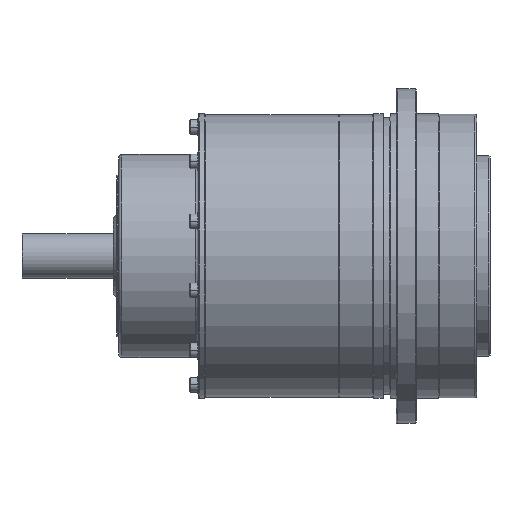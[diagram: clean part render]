
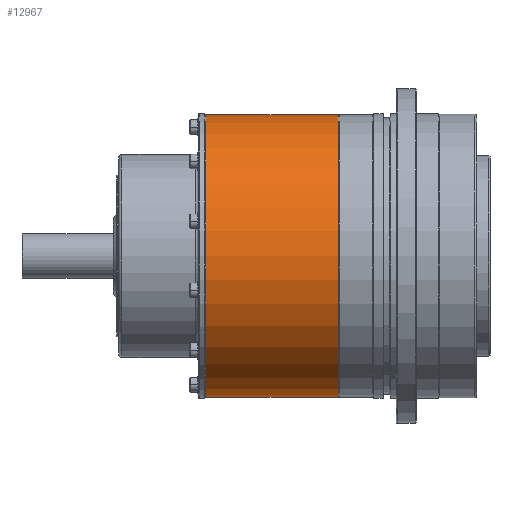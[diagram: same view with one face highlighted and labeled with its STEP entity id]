
A CAD part, top view. The second image highlights one B-rep face of the part: STEP entity #12967.
In plain terms, the highlighted cylindrical face has radius 126.5 mm (diameter 253 mm), a partial arc.
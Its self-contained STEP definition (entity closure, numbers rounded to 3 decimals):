
#10261=DIRECTION('',(-1.,0.,0.));
#10262=VECTOR('',#10261,119.2);
#10263=CARTESIAN_POINT('',(-0.3,-126.5,0.));
#10264=LINE('',#10263,#10262);
#10265=DIRECTION('',(-1.,0.,0.));
#10266=VECTOR('',#10265,119.2);
#10267=CARTESIAN_POINT('',(-0.3,126.5,0.));
#10268=LINE('',#10267,#10266);
#10269=CARTESIAN_POINT('',(-119.5,0.,0.));
#10270=DIRECTION('',(1.,0.,0.));
#10271=DIRECTION('',(0.,1.,0.));
#10272=AXIS2_PLACEMENT_3D('',#10269,#10270,#10271);
#10274=CARTESIAN_POINT('',(-0.3,0.,0.));
#10275=DIRECTION('',(-1.,0.,0.));
#10276=DIRECTION('',(0.,-1.,0.));
#10277=AXIS2_PLACEMENT_3D('',#10274,#10275,#10276);
#10434=CARTESIAN_POINT('',(-0.3,-126.5,0.));
#10435=CARTESIAN_POINT('',(-0.3,126.5,0.));
#10436=VERTEX_POINT('',#10434);
#10437=VERTEX_POINT('',#10435);
#10454=CARTESIAN_POINT('',(-119.5,126.5,0.));
#10455=CARTESIAN_POINT('',(-119.5,-126.5,0.));
#10456=VERTEX_POINT('',#10454);
#10457=VERTEX_POINT('',#10455);
#12954=CARTESIAN_POINT('',(-208.95,0.,0.));
#12955=DIRECTION('',(1.,0.,0.));
#12956=DIRECTION('',(0.,-1.,0.));
#12957=AXIS2_PLACEMENT_3D('',#12954,#12955,#12956);
#12958=CYLINDRICAL_SURFACE('',#12957,126.5);
#12960=ORIENTED_EDGE('',*,*,#12959,.F.);
#12961=ORIENTED_EDGE('',*,*,#12949,.F.);
#12963=ORIENTED_EDGE('',*,*,#12962,.F.);
#12964=ORIENTED_EDGE('',*,*,#12945,.T.);
#12965=EDGE_LOOP('',(#12960,#12961,#12963,#12964));
#12966=FACE_OUTER_BOUND('',#12965,.F.);
#12967=ADVANCED_FACE('',(#12966),#12958,.T.);
#10273=CIRCLE('',#10272,126.5);
#10278=CIRCLE('',#10277,126.5);
#12945=EDGE_CURVE('',#10436,#10457,#10264,.T.);
#12949=EDGE_CURVE('',#10437,#10456,#10268,.T.);
#12959=EDGE_CURVE('',#10456,#10457,#10273,.T.);
#12962=EDGE_CURVE('',#10436,#10437,#10278,.T.);
